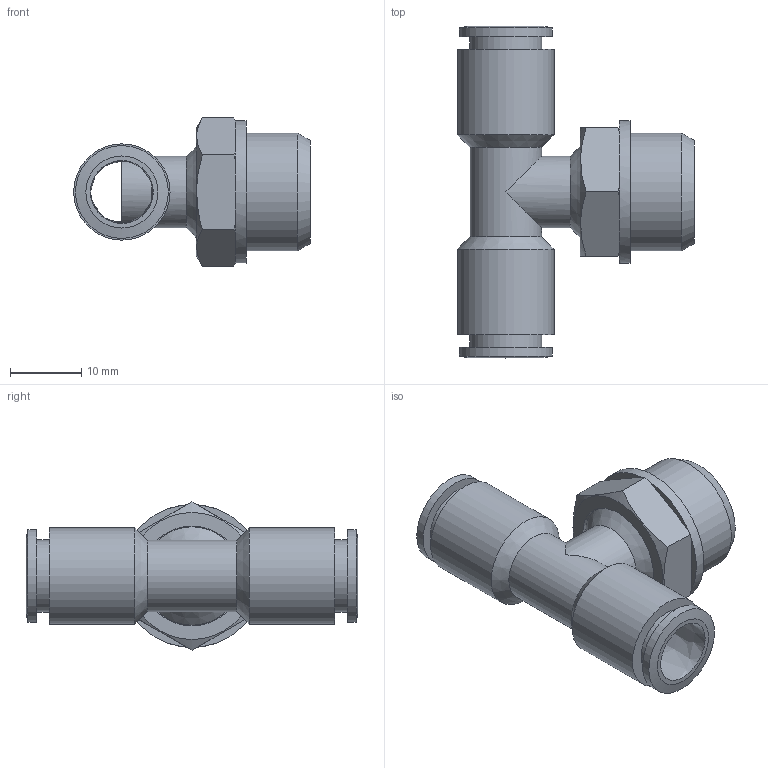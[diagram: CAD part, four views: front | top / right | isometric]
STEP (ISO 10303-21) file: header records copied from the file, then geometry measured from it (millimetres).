
FILE_DESCRIPTION((''),'2;1');
FILE_NAME('C:\Documents and Settings\rivolro1\Documenti\copia di Raccordi\PLASTICA\T20XXXX\T200838.stp','2007-10-31T15:26:52',('Rivolro1'),(''),'Autodesk Inventor 2008','Autodesk Inventor 2008','');
FILE_SCHEMA(('AUTOMOTIVE_DESIGN { 1 0 10303 214 1 1 1 1 }'));
Length unit declared in the file: millimetre
Products named in the file (1): T200838
Bounding box: 33.15 x 46.5 x 20.78 mm (x, y, z)
Volume: 5687.2 mm3; surface area: 5786.7 mm2
Topology: 1 solids, 1 shells, 53 faces, 110 edges, 67 vertices
Faces by surface type: plane 24, cylinder 15, cone 13, bspline 1
Full cylindrical faces by diameter (mm): 8.8 x1, 10 x2, 10.1 x2, 13 x2, 13.5 x2, 13.8 x1, 14 x1, 16.5 x1, 20 x1
Entity records: 1398 total; most frequent: CARTESIAN_POINT 317, DIRECTION 216, ORIENTED_EDGE 166, AXIS2_PLACEMENT_3D 100, EDGE_LOOP 86, EDGE_CURVE 83, VERTEX_POINT 61, FACE_OUTER_BOUND 53
